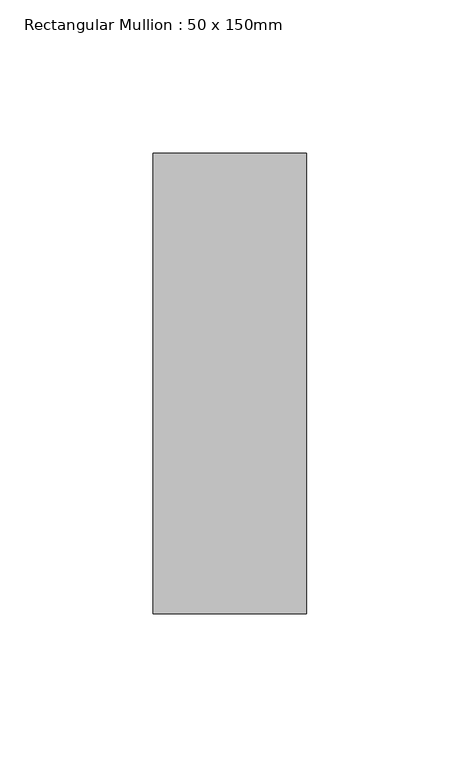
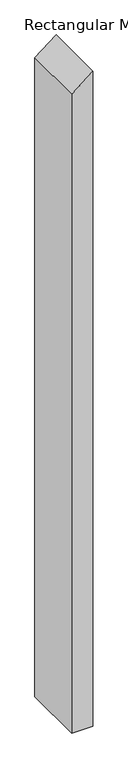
"""IFC4 building model written with IfcOpenShell, lengths in millimetres: member geometry, Rectangular Mullion : 50 x 150mm."""

from ifc_helpers import new_model, si_unit, frame, origin, place, context, project, spatial, polyline, outline, extrude, source, transform, mapped, element, save


def rectangular_mullion_50_x_150mm_9938e0ea(model_context):
    return source(origin(), model_context, "Body", "SweptSolid", [
        extrude(outline(polyline([(0.0, 0.0), (-39.1436655, -50.0), (-1629.5156212, -50.0), (-1629.5156212, 0.0), (0.0, 0.0)])), frame((0.0, -75.0, 0.0), z_axis=(0.0, 1.0, 0.0), x_axis=(0.0, 0.0, 1.0)), (0.0, 0.0, 1.0), 150.0),
    ])


if __name__ == "__main__":
    model = new_model("IFC4")
    model_context = context("Model", 3, world=origin())
    ifc_project = project(units=[si_unit("LENGTHUNIT", "METRE", prefix="MILLI")], contexts=[model_context])
    site = spatial("IfcSite", under=ifc_project)
    building = spatial("IfcBuilding", under=site)
    placement = place(None, origin())
    rectangular_mullion_50_x_150mm_shape = rectangular_mullion_50_x_150mm_9938e0ea(model_context)
    element("IfcMember", 1, ObjectType="Rectangular Mullion : 50 x 150mm", at=placement, inside=building, context=model_context, shape_type="MappedRepresentation", body=[
        mapped(rectangular_mullion_50_x_150mm_shape, transform((0.0, 0.0, 0.0), x_axis=(1.0, 0.0, 0.0), y_axis=(0.0, 1.0, 0.0), z_axis=(0.0, 0.0, 1.0))),
    ])
    save(model, "model.ifc")
